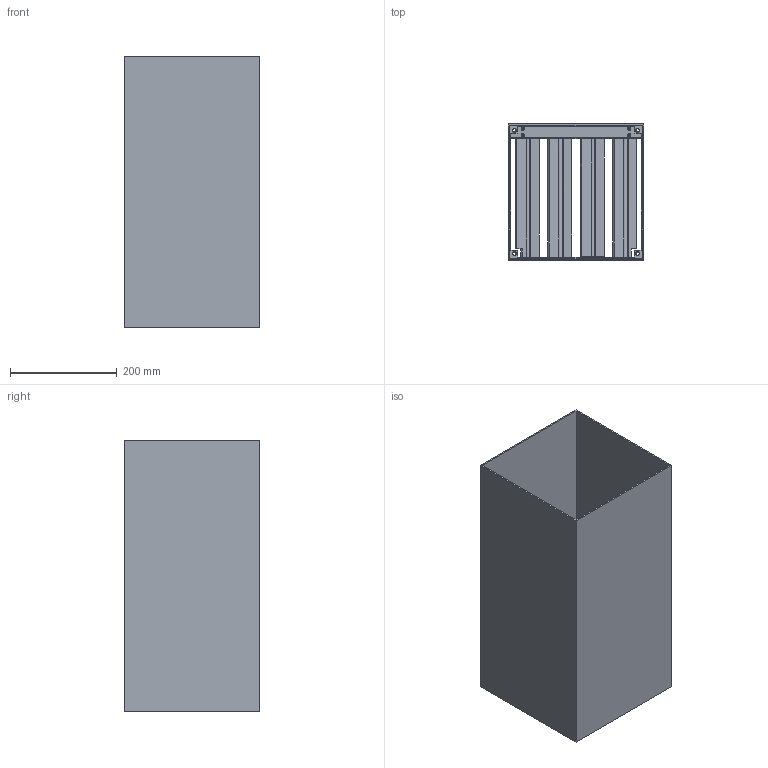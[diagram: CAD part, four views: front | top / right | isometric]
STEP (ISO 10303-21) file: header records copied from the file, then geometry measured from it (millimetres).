
FILE_DESCRIPTION (( 'STEP AP203' ), '1' );
FILE_NAME ('Damper Assembly.STEP', '2021-04-21T19:55:07', ( '' ), ( '' ), 'SwSTEP 2.0', 'SolidWorks 2020', '' );
FILE_SCHEMA (( 'CONFIG_CONTROL_DESIGN' ));
Length unit declared in the file: inch
Products named in the file (7): Electronics Cover; Outer Blade; Damper Frame-Small; Bracket; Damper Assembly; Inner Blade; Duct
Assembly tree (10 placements, depth 2):
  Damper Assembly
    Damper Frame-Small
    Electronics Cover  x2
    Bracket  x2
    Duct
    Inner Blade  x2
    Outer Blade  x2
Bounding box: 254 x 254 x 508 mm (x, y, z)
Volume: 1936933.3 mm3; surface area: 1389550.2 mm2
Topology: 10 solids, 10 shells, 252 faces, 696 edges, 464 vertices
Faces by surface type: plane 156, cylinder 96
Entity records: 6621 total; most frequent: CARTESIAN_POINT 997, DIRECTION 996, ORIENTED_EDGE 972, EDGE_CURVE 486, VECTOR 350, LINE 350, VERTEX_POINT 324, AXIS2_PLACEMENT_3D 323
